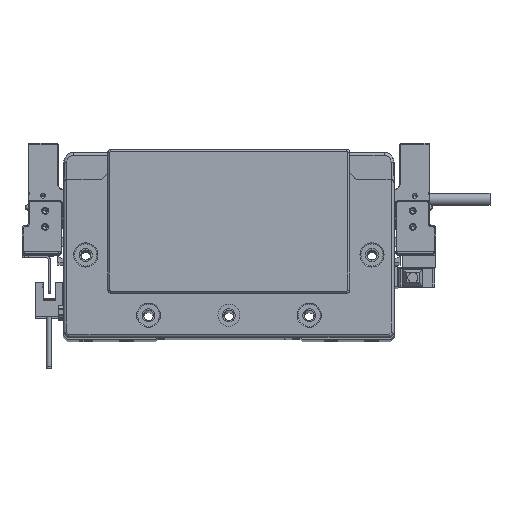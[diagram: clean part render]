
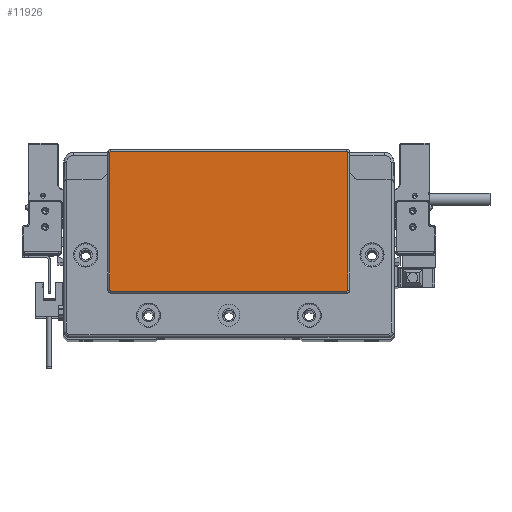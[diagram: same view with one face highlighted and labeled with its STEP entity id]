
A CAD part, top view. The second image highlights one B-rep face of the part: STEP entity #11926.
In plain terms, the highlighted planar face has unit normal (0, 0, 1) as drawn and (0, 0, -1) by its records, which use the part's own axes.
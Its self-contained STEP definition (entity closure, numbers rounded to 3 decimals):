
#250 = VECTOR ( 'NONE', #73892, 1000. ) ;
#731 = EDGE_CURVE ( 'NONE', #64412, #67097, #4582, .T. ) ;
#1045 = DIRECTION ( 'NONE',  ( 0., 0., -1. ) ) ;
#3065 = CIRCLE ( 'NONE', #13999, 0.5 ) ;
#3693 = VECTOR ( 'NONE', #5589, 1000. ) ;
#4582 = CIRCLE ( 'NONE', #30611, 0.5 ) ;
#5260 = ORIENTED_EDGE ( 'NONE', *, *, #80886, .T. ) ;
#5445 = CARTESIAN_POINT ( 'NONE',  ( -58.75, -23.8, -2. ) ) ;
#5573 = CARTESIAN_POINT ( 'NONE',  ( 58.75, -23.3, -2. ) ) ;
#5589 = DIRECTION ( 'NONE',  ( 1., 0., 0. ) ) ;
#5753 = CARTESIAN_POINT ( 'NONE',  ( 59.25, -23.3, -2. ) ) ;
#7813 = CARTESIAN_POINT ( 'NONE',  ( 58.75, -23.8, -2. ) ) ;
#7982 = CARTESIAN_POINT ( 'NONE',  ( -58.75, -23.3, -2. ) ) ;
#8534 = VERTEX_POINT ( 'NONE', #28820 ) ;
#9080 = AXIS2_PLACEMENT_3D ( 'NONE', #77869, #19221, #32516 ) ;
#9425 = LINE ( 'NONE', #75314, #68262 ) ;
#11926 = ADVANCED_FACE ( 'NONE', ( #51770 ), #60619, .T. ) ;
#12432 = LINE ( 'NONE', #38541, #3693 ) ;
#13545 = DIRECTION ( 'NONE',  ( 0., 0., -1. ) ) ;
#13999 = AXIS2_PLACEMENT_3D ( 'NONE', #5573, #63780, #30854 ) ;
#14771 = EDGE_CURVE ( 'NONE', #26716, #57040, #3065, .T. ) ;
#15382 = EDGE_CURVE ( 'NONE', #42001, #26716, #80349, .T. ) ;
#15978 = CARTESIAN_POINT ( 'NONE',  ( -58.75, 45.3, -2. ) ) ;
#18004 = ORIENTED_EDGE ( 'NONE', *, *, #24444, .T. ) ;
#18278 = VERTEX_POINT ( 'NONE', #21449 ) ;
#19221 = DIRECTION ( 'NONE',  ( 0., 0., -1. ) ) ;
#21449 = CARTESIAN_POINT ( 'NONE',  ( 58.75, 45.8, -2. ) ) ;
#22257 = AXIS2_PLACEMENT_3D ( 'NONE', #15978, #1045, #49809 ) ;
#24444 = EDGE_CURVE ( 'NONE', #57040, #64412, #9425, .T. ) ;
#26716 = VERTEX_POINT ( 'NONE', #5753 ) ;
#28820 = CARTESIAN_POINT ( 'NONE',  ( -59.25, 45.3, -2. ) ) ;
#30611 = AXIS2_PLACEMENT_3D ( 'NONE', #7982, #13545, #72624 ) ;
#30854 = DIRECTION ( 'NONE',  ( -1., 0., 0. ) ) ;
#32516 = DIRECTION ( 'NONE',  ( -1., 0., 0. ) ) ;
#37476 = EDGE_CURVE ( 'NONE', #67097, #8534, #81308, .T. ) ;
#38536 = VERTEX_POINT ( 'NONE', #81321 ) ;
#38541 = CARTESIAN_POINT ( 'NONE',  ( 58.75, 45.8, -2. ) ) ;
#42001 = VERTEX_POINT ( 'NONE', #46999 ) ;
#44141 = CIRCLE ( 'NONE', #22257, 0.5 ) ;
#46999 = CARTESIAN_POINT ( 'NONE',  ( 59.25, 45.3, -2. ) ) ;
#47801 = CARTESIAN_POINT ( 'NONE',  ( 59.25, -23.3, -2. ) ) ;
#47970 = ORIENTED_EDGE ( 'NONE', *, *, #15382, .T. ) ;
#49809 = DIRECTION ( 'NONE',  ( -1., 0., 0. ) ) ;
#49987 = CARTESIAN_POINT ( 'NONE',  ( -59.25, -23.3, -2. ) ) ;
#50033 = DIRECTION ( 'NONE',  ( 0., 1., 0. ) ) ;
#50243 = EDGE_LOOP ( 'NONE', ( #47970, #68787, #18004, #84341, #65327, #5260, #72805, #65584 ) ) ;
#51770 = FACE_OUTER_BOUND ( 'NONE', #50243, .T. ) ;
#52947 = CIRCLE ( 'NONE', #67963, 0.5 ) ;
#53731 = DIRECTION ( 'NONE',  ( -1., 0., 0. ) ) ;
#54559 = DIRECTION ( 'NONE',  ( 0., 0., -1. ) ) ;
#55737 = EDGE_CURVE ( 'NONE', #38536, #18278, #12432, .T. ) ;
#57040 = VERTEX_POINT ( 'NONE', #7813 ) ;
#58934 = VECTOR ( 'NONE', #50033, 1000. ) ;
#60619 = PLANE ( 'NONE',  #9080 ) ;
#60982 = CARTESIAN_POINT ( 'NONE',  ( 58.75, 45.3, -2. ) ) ;
#62826 = CARTESIAN_POINT ( 'NONE',  ( -59.25, 45.3, -2. ) ) ;
#63780 = DIRECTION ( 'NONE',  ( 0., 0., -1. ) ) ;
#64412 = VERTEX_POINT ( 'NONE', #5445 ) ;
#65327 = ORIENTED_EDGE ( 'NONE', *, *, #37476, .T. ) ;
#65584 = ORIENTED_EDGE ( 'NONE', *, *, #71255, .T. ) ;
#67097 = VERTEX_POINT ( 'NONE', #49987 ) ;
#67963 = AXIS2_PLACEMENT_3D ( 'NONE', #60982, #54559, #53731 ) ;
#68262 = VECTOR ( 'NONE', #76587, 1000. ) ;
#68787 = ORIENTED_EDGE ( 'NONE', *, *, #14771, .T. ) ;
#71255 = EDGE_CURVE ( 'NONE', #18278, #42001, #52947, .T. ) ;
#72624 = DIRECTION ( 'NONE',  ( -1., 0., 0. ) ) ;
#72805 = ORIENTED_EDGE ( 'NONE', *, *, #55737, .T. ) ;
#73892 = DIRECTION ( 'NONE',  ( 0., -1., 0. ) ) ;
#75314 = CARTESIAN_POINT ( 'NONE',  ( -58.75, -23.8, -2. ) ) ;
#76587 = DIRECTION ( 'NONE',  ( -1., 0., 0. ) ) ;
#77869 = CARTESIAN_POINT ( 'NONE',  ( 0., 0., -2. ) ) ;
#80349 = LINE ( 'NONE', #47801, #250 ) ;
#80886 = EDGE_CURVE ( 'NONE', #8534, #38536, #44141, .T. ) ;
#81308 = LINE ( 'NONE', #62826, #58934 ) ;
#81321 = CARTESIAN_POINT ( 'NONE',  ( -58.75, 45.8, -2. ) ) ;
#84341 = ORIENTED_EDGE ( 'NONE', *, *, #731, .T. ) ;
